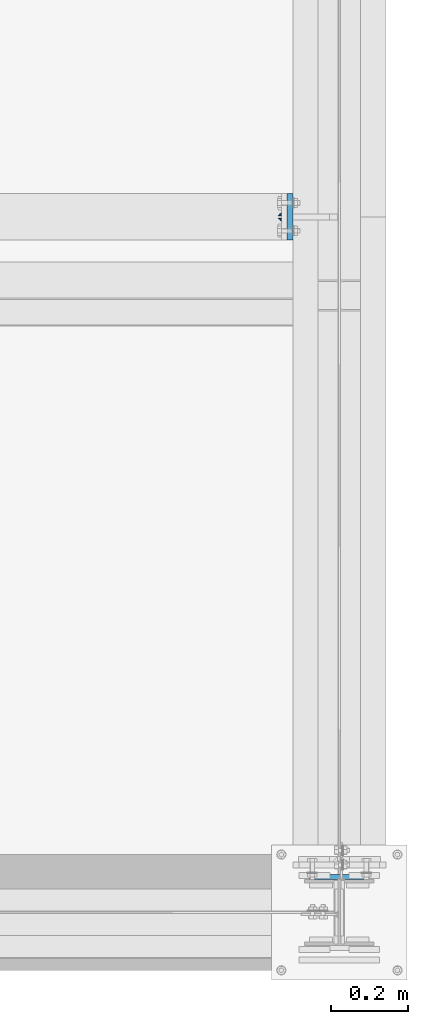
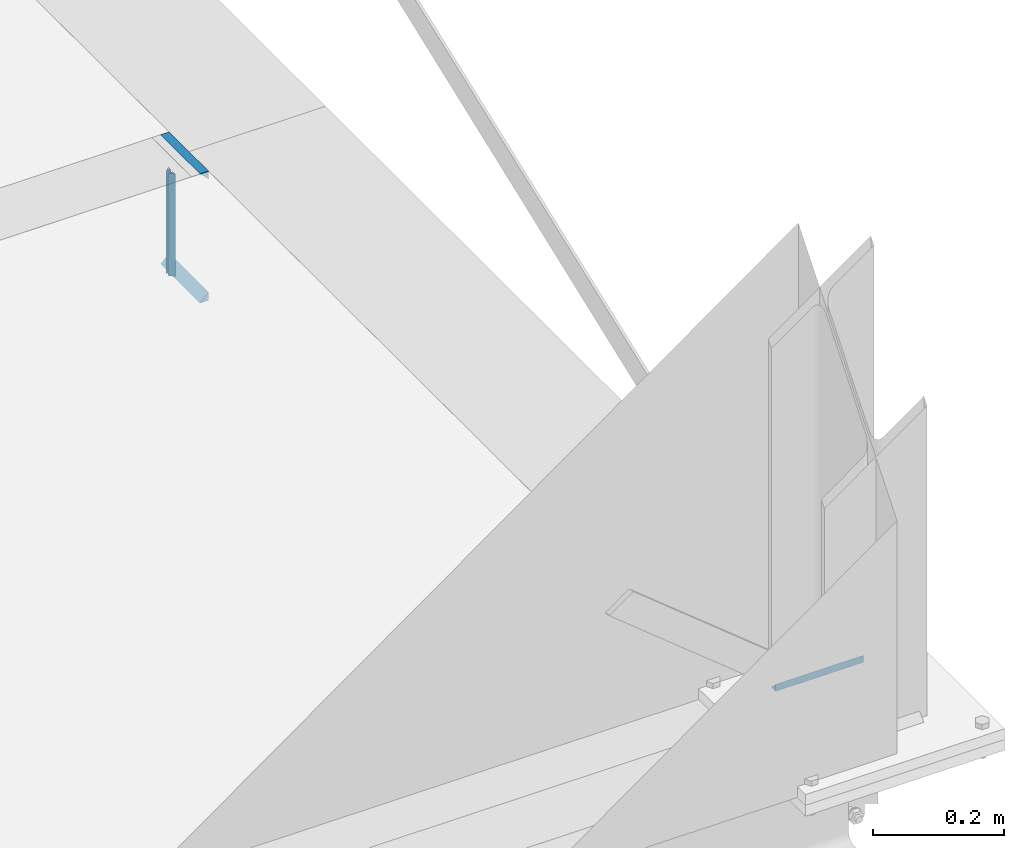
# One storey, part 21 of 66: 7 fasteners.
"""IFC4 building model written with IfcOpenShell, lengths in metres."""

import ifcopenshell
import ifcopenshell.guid

model = None  # the IFC model being written
_history = None  # IfcOwnerHistory: only IFC2X3 demands one
_inside = {}  # id of a spatial element -> (the spatial element, [elements in it])
_under = {}  # id of a project, library or spatial element -> (it, [spatial elements below it])
_declared = {}  # id of a project -> (the project, [libraries it declares])
_typed = {}  # id of a type object -> (the type object, [elements of that type])
_made_of = {}  # id of a material, layer set ... -> (it, [elements and type objects made of it])


def new_model(schema):
    """Start an empty IFC model of exactly this schema.

    Asked for "IFC4X3", IfcOpenShell would pick the latest addendum, in which some entities
    have other attributes; the version numbers below select the first issue.
    IFC2X3 requires an IfcOwnerHistory on every rooted entity: one is made here for all.
    """
    global model, _history
    if schema == "IFC4X3":
        model = ifcopenshell.file(schema_version=(4, 3, 0, 0))
    else:
        model = ifcopenshell.file(schema=schema)
    _inside.clear()
    _under.clear()
    _declared.clear()
    _typed.clear()
    _made_of.clear()
    _history = None
    if model.schema == "IFC2X3":
        org = make("IfcOrganization", Name="unknown")
        user = make(
            "IfcPersonAndOrganization",
            ThePerson=make("IfcPerson", FamilyName="unknown"),
            TheOrganization=org,
        )
        app = make(
            "IfcApplication",
            ApplicationDeveloper=org,
            Version="unknown",
            ApplicationFullName="unknown",
            ApplicationIdentifier="unknown",
        )
        _history = make(
            "IfcOwnerHistory",
            OwningUser=user,
            OwningApplication=app,
            ChangeAction="ADDED",
            CreationDate=0,
        )
    return model


def make(cls, **values):
    """One entity of the class cls with the attributes given. An attribute that is None is left unset."""
    return model.create_entity(
        cls, **{name: value for name, value in values.items() if value is not None}
    )


def rooted(cls, **values):
    """An entity with a GlobalId (a new one), such as an element, a storey or a relation."""
    return make(cls, GlobalId=ifcopenshell.guid.new(), OwnerHistory=_history, **values)


def si_unit(unit_type, name, prefix=None):
    """IfcSIUnit, for example si_unit("LENGTHUNIT", "METRE", prefix="MILLI")."""
    return make("IfcSIUnit", UnitType=unit_type, Prefix=prefix, Name=name)


def assignment(units):
    """IfcUnitAssignment: the units of a project."""
    return None if units is None else make("IfcUnitAssignment", Units=units)


def point(xyz):
    """IfcCartesianPoint."""
    return None if xyz is None else make("IfcCartesianPoint", Coordinates=xyz)


def direction(xyz):
    """IfcDirection."""
    return None if xyz is None else make("IfcDirection", DirectionRatios=xyz)


def frame(location, z_axis=None, x_axis=None):
    """IfcAxis2Placement3D, a coordinate frame: its origin and axes. An axis left out is left unset."""
    return make(
        "IfcAxis2Placement3D",
        Location=point(location),
        Axis=direction(z_axis),
        RefDirection=direction(x_axis),
    )


def origin_with_axes():
    """The frame at (0, 0, 0) with the z axis (0, 0, 1) and the x axis (1, 0, 0) written out."""
    return frame((0.0, 0.0, 0.0), z_axis=(0.0, 0.0, 1.0), x_axis=(1.0, 0.0, 0.0))


def place(relative_to, where):
    """IfcLocalPlacement: puts the frame where relative to a parent placement (None: the world)."""
    return make(
        "IfcLocalPlacement", PlacementRelTo=relative_to, RelativePlacement=where
    )


def context(
    kind, dimensions, precision=None, world=None, true_north=None, identifier=None
):
    """IfcGeometricRepresentationContext, for example the 3D "Model" context."""
    return make(
        "IfcGeometricRepresentationContext",
        ContextIdentifier=identifier,
        ContextType=kind,
        CoordinateSpaceDimension=dimensions,
        Precision=precision,
        WorldCoordinateSystem=world,
        TrueNorth=true_north,
    )


def project(units=None, contexts=None):
    """IfcProject with its units and contexts."""
    return rooted(
        "IfcProject",
        Name="project",
        RepresentationContexts=contexts,
        UnitsInContext=assignment(units),
    )


def spatial(cls, under=None, at=None, **own):
    """A site, building, storey or space (cls), placed at a placement, below another one or the project."""
    s = rooted(cls, ObjectPlacement=at, **own)
    if under is not None:
        _under.setdefault(under.id(), (under, []))[1].append(s)
    return s


def polyline(points):
    """IfcPolyline through the points."""
    return make("IfcPolyline", Points=[point(p) for p in points])


def outline(outer, holes=None, kind="AREA"):
    """IfcArbitraryClosedProfileDef: a profile drawn as a closed curve; with holes, ...WithVoids."""
    if holes is None:
        return make("IfcArbitraryClosedProfileDef", ProfileType=kind, OuterCurve=outer)
    return make(
        "IfcArbitraryProfileDefWithVoids",
        ProfileType=kind,
        OuterCurve=outer,
        InnerCurves=holes,
    )


def extrude(swept, where, along, depth):
    """IfcExtrudedAreaSolid: the profile swept, set in the frame where, extruded along a direction by depth."""
    return make(
        "IfcExtrudedAreaSolid",
        SweptArea=swept,
        Position=where,
        ExtrudedDirection=direction(along),
        Depth=depth,
    )


def shape(context_of_items, identifier, shape_type, items):
    """IfcShapeRepresentation: the items that make up one representation, for example the "Body"."""
    return make(
        "IfcShapeRepresentation",
        ContextOfItems=context_of_items,
        RepresentationIdentifier=identifier,
        RepresentationType=shape_type,
        Items=items,
    )


def made_of(thing, what):
    """Note that an element or type object is made of a material, layer set ...; save() writes the relation."""
    if what is not None:
        _made_of.setdefault(what.id(), (what, []))[1].append(thing)
    return thing


def type_object(cls, material=None, **own):
    """A type object (cls), such as IfcWallType, which elements share."""
    return made_of(rooted(cls, **own), material)


def element(
    cls,
    number,
    at=None,
    inside=None,
    cuts=None,
    type_object=None,
    material=None,
    context=None,
    identifier="Body",
    shape_type=None,
    held_by="IfcProductDefinitionShape",
    body=None,
    shapes=None,
    **own,
):
    """One element of the class cls, such as IfcWall. Its Tag is "e" and its number.

    at: its placement. inside: the storey or other place that contains it. cuts: it is an
    opening in that element (IfcRelVoidsElement). A single representation is given by context,
    identifier, shape_type and body (its items); several are given by shapes. held_by: the class
    of the entity that holds the representations. save() writes the other relations.
    """
    e = rooted(cls, Tag="e%d" % number, ObjectPlacement=at, **own)
    if body is not None:
        shapes = [shape(context, identifier, shape_type, body)]
    if shapes is not None:
        e.Representation = make(held_by, Representations=shapes)
    if inside is not None:
        _inside.setdefault(inside.id(), (inside, []))[1].append(e)
    if cuts is not None:
        rooted(
            "IfcRelVoidsElement", RelatingBuildingElement=cuts, RelatedOpeningElement=e
        )
    if type_object is not None:
        _typed.setdefault(type_object.id(), (type_object, []))[1].append(e)
    return made_of(e, material)


def aggregate(whole, parts):
    """IfcRelAggregates: a whole, such as a stair, and the parts it consists of."""
    return rooted("IfcRelAggregates", RelatingObject=whole, RelatedObjects=parts)


def save(model, path):
    """Write the relations noted so far, then the file.

    IfcRelAggregates (storeys below a building ...), IfcRelContainedInSpatialStructure (elements
    in a storey), IfcRelDefinesByType, IfcRelAssociatesMaterial and IfcRelDeclares: one each for
    every whole, place, type object, material and project.
    """
    for whole, parts in _under.values():
        aggregate(whole, parts)
    for where, things in _inside.values():
        rooted(
            "IfcRelContainedInSpatialStructure",
            RelatedElements=things,
            RelatingStructure=where,
        )
    for kind, things in _typed.values():
        rooted("IfcRelDefinesByType", RelatedObjects=things, RelatingType=kind)
    for what, things in _made_of.values():
        rooted("IfcRelAssociatesMaterial", RelatedObjects=things, RelatingMaterial=what)
    for by, libraries in _declared.values():
        rooted("IfcRelDeclares", RelatingContext=by, RelatedDefinitions=libraries)
    model.write(path)


model = new_model("IFC4")

# Units and contexts
model_context = context("Model", 3, precision=1e-05, world=origin_with_axes())
ifc_project = project(units=[si_unit("LENGTHUNIT", "METRE"), si_unit("AREAUNIT", "SQUARE_METRE"), si_unit("VOLUMEUNIT", "CUBIC_METRE"), si_unit("MASSUNIT", "GRAM", prefix="KILO"), si_unit("TIMEUNIT", "SECOND"), si_unit("PLANEANGLEUNIT", "RADIAN"), si_unit("SOLIDANGLEUNIT", "STERADIAN"), si_unit("THERMODYNAMICTEMPERATUREUNIT", "DEGREE_CELSIUS")], contexts=[model_context])

# Site, building, storey
placement_1 = place(None, origin_with_axes())
site = spatial("IfcSite", under=ifc_project, at=placement_1, Name="Italia", CompositionType="ELEMENT")
building = spatial("IfcBuilding", under=site, at=placement_1, Name="Uffici", CompositionType="ELEMENT")
storey_placement = place(None, frame((0.0, 0.0, 3.299999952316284), z_axis=(0.0, 0.0, 1.0), x_axis=(1.0, 0.0, 0.0)))
storey = spatial("IfcBuildingStorey", under=building, at=storey_placement, Name="Storey 1", CompositionType="ELEMENT", Elevation=3.299999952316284)

# Fasteners
fastener_type_1 = type_object("IfcFastenerType", Name="Collegamenti -005_-004 -015_-014 0115_0114", PredefinedType="WELD")
placement_2 = place(placement_1, origin_with_axes())
fastener_1_placement = place(placement_2, origin_with_axes())
element("IfcFastener", 1, at=fastener_1_placement, inside=storey, type_object=fastener_type_1, Name="Collegamenti -005_-004 -015_-014 0115_0114", context=model_context, shape_type="SweptSolid", body=[
    extrude(outline(polyline([(0.0, 0.0), (0.00792813, 0.00817299), (0.00792813, 0.0), (0.0, 0.0)])), frame((13.8201, 1.78569, 3.08475), z_axis=(0.0, 0.0, 1.0), x_axis=(0.0, 1.0, 0.0)), (0.0, 0.0, 1.0), 0.1905),
])
fastener_type_2 = type_object("IfcFastenerType", Name="Collegamenti -005_-004 -015_-014 0115_0114", PredefinedType="WELD")
fastener_2_placement = place(placement_2, origin_with_axes())
element("IfcFastener", 2, at=fastener_2_placement, inside=storey, type_object=fastener_type_2, Name="Collegamenti -005_-004 -015_-014 0115_0114", context=model_context, shape_type="SweptSolid", body=[
    extrude(outline(polyline([(0.0, 0.0), (-0.00792813, -0.00817299), (-0.00792813, 0.0), (0.0, 0.0)])), frame((13.8201, 1.80764, 3.27525), z_axis=(0.0, 0.0, -1.0), x_axis=(0.0, 1.0, 0.0)), (0.0, 0.0, 1.0), 0.1905),
])
fastener_type_3 = type_object("IfcFastenerType", Name="Collegamenti -005_-004 -015_-014 0115_0114", PredefinedType="WELD")
fastener_3_placement = place(placement_2, origin_with_axes())
element("IfcFastener", 3, at=fastener_3_placement, inside=storey, type_object=fastener_type_3, Name="Collegamenti -005_-004 -015_-014 0115_0114", context=model_context, shape_type="SweptSolid", body=[
    extrude(outline(polyline([(0.0, 0.0), (0.00792813, 0.00817299), (0.00792813, 0.0), (0.0, 0.0)])), frame((13.8201, 1.78569, 3.08475), z_axis=(0.0, 0.0, 1.0), x_axis=(0.0, 1.0, 0.0)), (0.0, 0.0, 1.0), 0.1905),
])
fastener_type_4 = type_object("IfcFastenerType", Name="Collegamenti -005_-004 -015_-014 0115_0114", PredefinedType="WELD")
fastener_4_placement = place(placement_2, origin_with_axes())
element("IfcFastener", 4, at=fastener_4_placement, inside=storey, type_object=fastener_type_4, Name="Collegamenti -005_-004 -015_-014 0115_0114", context=model_context, shape_type="SweptSolid", body=[
    extrude(outline(polyline([(0.0, 0.0), (-0.00792813, -0.00817299), (-0.00792813, 0.0), (0.0, 0.0)])), frame((13.8201, 1.80764, 3.27525), z_axis=(0.0, 0.0, -1.0), x_axis=(0.0, 1.0, 0.0)), (0.0, 0.0, 1.0), 0.1905),
])
fastener_type_5 = type_object("IfcFastenerType", Name="Collegamenti -005_-004 -015_-014 0115_0114", PredefinedType="WELD")
fastener_5_placement = place(placement_2, origin_with_axes())
element("IfcFastener", 5, at=fastener_5_placement, inside=storey, type_object=fastener_type_5, Name="Collegamenti -005_-004 -015_-014 0115_0114", context=model_context, shape_type="SweptSolid", body=[
    extrude(outline(polyline([(0.0, 0.0), (0.015173, -0.0147183), (0.0, -0.0147183), (0.0, 0.0)])), frame((13.8501, 1.73662, 3.07467), z_axis=(0.0, 1.0, 0.0), x_axis=(-1.0, 0.0, 0.0)), (0.0, 0.0, 1.0), 0.1201),
])
fastener_type_6 = type_object("IfcFastenerType", Name="Collegamenti -005_-004 -015_-014 0115_0114", PredefinedType="WELD")
fastener_6_placement = place(placement_2, origin_with_axes())
element("IfcFastener", 6, at=fastener_6_placement, inside=storey, type_object=fastener_type_6, Name="Collegamenti -005_-004 -015_-014 0115_0114", context=model_context, shape_type="SweptSolid", body=[
    extrude(outline(polyline([(0.0, 0.0), (-0.015173, 0.0147183), (0.0, 0.0147183), (0.0, 0.0)])), frame((13.8501, 1.85672, 3.28533), z_axis=(0.0, -1.0, 0.0), x_axis=(1.0, 0.0, 0.0)), (0.0, 0.0, 1.0), 0.1201),
])
fastener_type_7 = type_object("IfcFastenerType", Name="Collegamenti 0101_0201 0102_0202 0103_0203 0104_0204 0105_0205", PredefinedType="WELD")
fastener_7_placement = place(placement_2, origin_with_axes())
element("IfcFastener", 7, at=fastener_7_placement, inside=storey, type_object=fastener_type_7, Name="Collegamenti 0101_0201 0102_0202 0103_0203 0104_0204 0105_0205", context=model_context, shape_type="SweptSolid", body=[
    extrude(outline(polyline([(0.0, 0.0), (0.0127782, 0.0131733), (0.0127782, 0.0), (0.0, 0.0)])), frame((14.0471, 0.0982282, 3.31995), z_axis=(-1.0, 0.0, 0.0), x_axis=(0.0, -1.0, 0.0)), (0.0, 0.0, 1.0), 0.1541),
])

save(model, "model.ifc")
